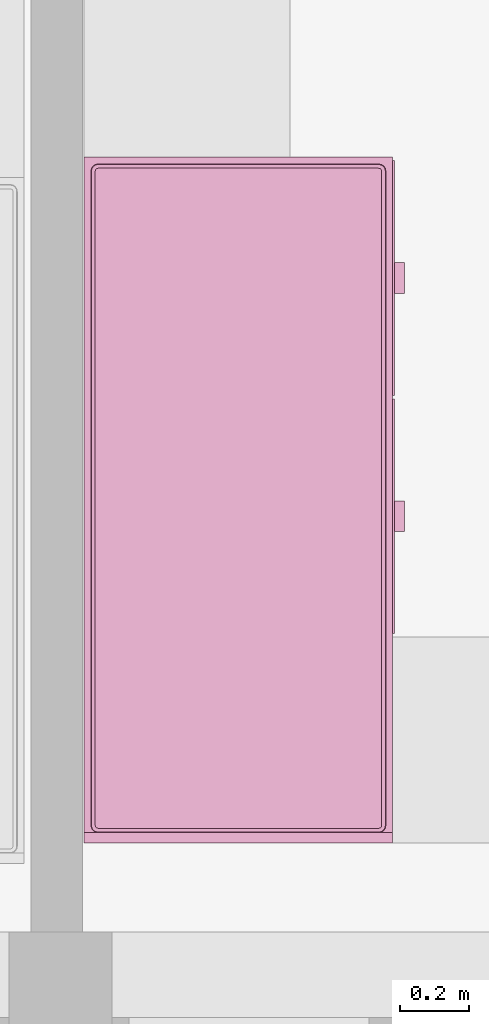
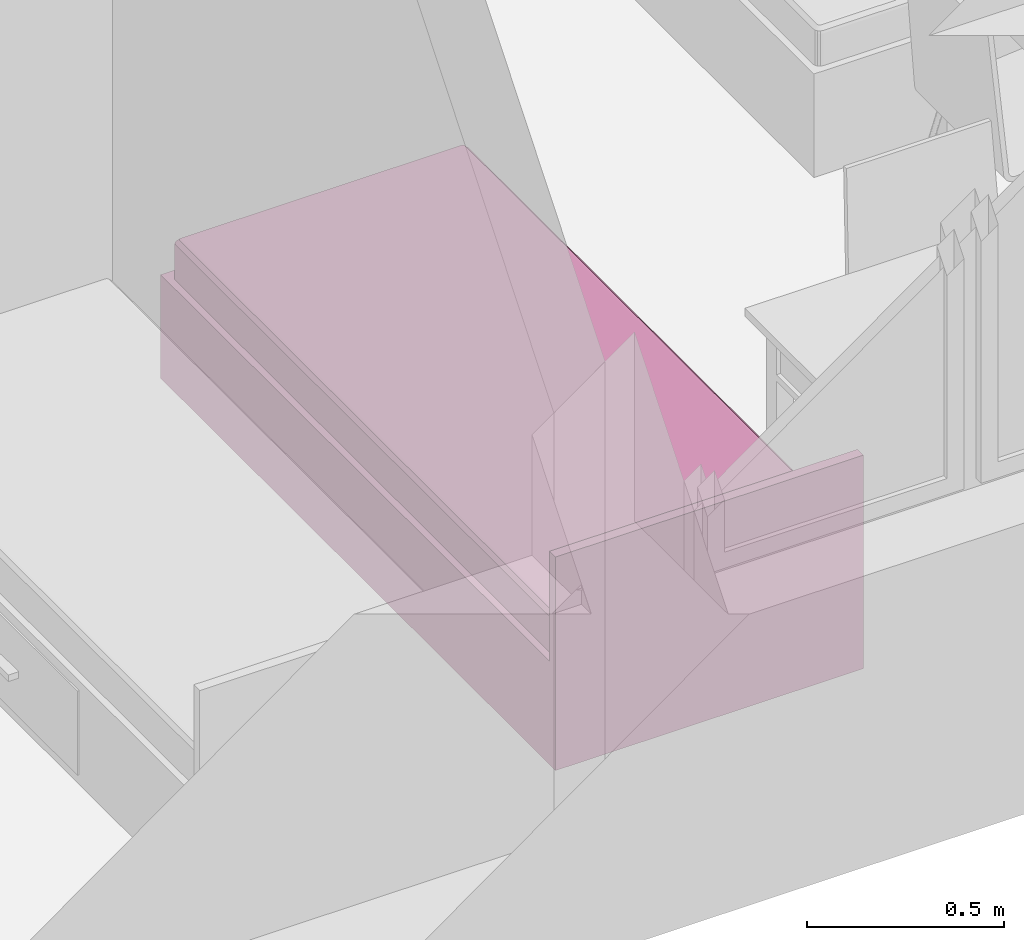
# One storey, part 98 of 172: 1 furnishing.
"""IFC2X3 building model written with IfcOpenShell, lengths in millimetres."""

from ifc_helpers import new_model, entity, si_unit, converted_unit, money_unit, direction, frame, origin_with_axes, place, context, subcontext, project, spatial, faceted_brep, source, transform, mapped, material, material_list, type_object, element, save


model = new_model("IFC2X3")

# Units and contexts
model_context = context("Model", 3, precision=1e-05, world=origin_with_axes(), true_north=direction((0.0, 1.0)))
body_context = subcontext(model_context, "Body", "Model", "MODEL_VIEW")
ifc_project = project(units=[si_unit("LENGTHUNIT", "METRE", prefix="MILLI"), si_unit("AREAUNIT", "SQUARE_METRE"), si_unit("VOLUMEUNIT", "CUBIC_METRE"), converted_unit("PLANEANGLEUNIT", "DEGREE", entity("IfcPlaneAngleMeasure", 0.0174532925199), si_unit("PLANEANGLEUNIT", "RADIAN"), dimensions=[0, 0, 0, 0, 0, 0, 0]), si_unit("SOLIDANGLEUNIT", "STERADIAN"), money_unit("USD"), converted_unit("TIMEUNIT", "Year", entity("IfcTimeMeasure", 31556926.0), si_unit("TIMEUNIT", "SECOND"), dimensions=[0, 0, 0, 0, 0, 0, 0]), si_unit("MASSUNIT", "GRAM"), si_unit("THERMODYNAMICTEMPERATUREUNIT", "DEGREE_CELSIUS"), si_unit("LUMINOUSINTENSITYUNIT", "LUMEN")], contexts=[model_context])

# Site, building, storey
site_placement = place(None, origin_with_axes())
site = spatial("IfcSite", under=ifc_project, at=site_placement, Name="Site", CompositionType="ELEMENT")
building_placement = place(site_placement, origin_with_axes())
building = spatial("IfcBuilding", under=site, at=building_placement, Name="Building", CompositionType="ELEMENT")
storey_placement = place(building_placement, frame((0.0, 0.0, 3200.0), z_axis=(0.0, 0.0, 1.0), x_axis=(1.0, 0.0, 0.0)))
storey = spatial("IfcBuildingStorey", under=building, at=storey_placement, Name="3KORRUS", CompositionType="ELEMENT", Elevation=3200.0)

# Furnishing
ifc_material = material(Name="Background")
ifc_material_list = material_list([ifc_material])
furnishing_element_type = type_object("IfcFurnishingElementType", Name="Bed 19")
shared_shape = source(origin_with_axes(), body_context, "Body", "Brep", [
    faceted_brep([(-900.0, 1970.0, 0.0), (-900.0, 2000.0, 0.0), (0.0, 2000.0, 0.0), (0.0, 1970.0, 0.0), (-900.0, 1970.0, 660.0), (-900.0, 2000.0, 660.0), (0.0, 2000.0, 660.0), (0.0, 1970.0, 660.0)], [[[0, 1, 2, 3]], [[0, 4, 5, 1]], [[1, 5, 6, 2]], [[2, 6, 7, 3]], [[3, 7, 4, 0]], [[7, 6, 5, 4]]]),
    faceted_brep([(-900.0, 0.0, 0.0), (-900.0, 1970.0, 0.0), (0.0, 1970.0, 0.0), (0.0, 0.0, 0.0), (-900.0, 0.0, 320.0), (-900.0, 1970.0, 320.0), (0.0, 1970.0, 320.0), (0.0, 0.0, 320.0)], [[[0, 1, 2, 3]], [[0, 4, 5, 1]], [[1, 5, 6, 2]], [[2, 6, 7, 3]], [[3, 7, 4, 0]], [[7, 6, 5, 4]]]),
    faceted_brep([(-905.0, 10.0, 30.0), (-905.0, 695.0, 30.0), (-900.0, 695.0, 30.0), (-900.0, 10.0, 30.0), (-905.0, 10.0, 290.0), (-905.0, 695.0, 290.0), (-900.0, 695.0, 290.0), (-900.0, 10.0, 290.0)], [[[0, 1, 2, 3]], [[0, 4, 5, 1]], [[1, 5, 6, 2]], [[2, 6, 7, 3]], [[3, 7, 4, 0]], [[7, 6, 5, 4]]]),
    faceted_brep([(-935.0, 307.5, 150.0), (-935.0, 397.5, 150.0), (-905.0, 397.5, 150.0), (-905.0, 307.5, 150.0), (-935.0, 307.5, 170.0), (-935.0, 397.5, 170.0), (-905.0, 397.5, 170.0), (-905.0, 307.5, 170.0)], [[[0, 1, 2, 3]], [[0, 4, 5, 1]], [[1, 5, 6, 2]], [[2, 6, 7, 3]], [[3, 7, 4, 0]], [[7, 6, 5, 4]]]),
    faceted_brep([(-905.0, 705.0, 30.0), (-905.0, 1390.0, 30.0), (-900.0, 1390.0, 30.0), (-900.0, 705.0, 30.0), (-905.0, 705.0, 290.0), (-905.0, 1390.0, 290.0), (-900.0, 1390.0, 290.0), (-900.0, 705.0, 290.0)], [[[0, 1, 2, 3]], [[0, 4, 5, 1]], [[1, 5, 6, 2]], [[2, 6, 7, 3]], [[3, 7, 4, 0]], [[7, 6, 5, 4]]]),
    faceted_brep([(-935.0, 1002.5, 150.0), (-935.0, 1092.5, 150.0), (-905.0, 1092.5, 150.0), (-905.0, 1002.5, 150.0), (-935.0, 1002.5, 170.0), (-935.0, 1092.5, 170.0), (-905.0, 1092.5, 170.0), (-905.0, 1002.5, 170.0)], [[[0, 1, 2, 3]], [[0, 4, 5, 1]], [[1, 5, 6, 2]], [[2, 6, 7, 3]], [[3, 7, 4, 0]], [[7, 6, 5, 4]]]),
    faceted_brep([(-20.0, 40.0, 350.0), (-21.522, 32.346, 350.0), (-25.858, 25.858, 350.0), (-32.346, 21.522, 350.0), (-40.0, 20.0, 350.0), (-860.0, 20.0, 350.0), (-867.654, 21.522, 350.0), (-874.142, 25.858, 350.0), (-878.478, 32.346, 350.0), (-880.0, 40.0, 350.0), (-880.0, 1950.0, 350.0), (-878.478, 1957.654, 350.0), (-874.142, 1964.142, 350.0), (-867.654, 1968.478, 350.0), (-860.0, 1970.0, 350.0), (-40.0, 1970.0, 350.0), (-32.346, 1968.478, 350.0), (-25.858, 1964.142, 350.0), (-21.522, 1957.654, 350.0), (-20.0, 1950.0, 350.0), (-20.0, 40.0, 420.0), (-21.522, 32.346, 420.0), (-25.858, 25.858, 420.0), (-32.346, 21.522, 420.0), (-40.0, 20.0, 420.0), (-860.0, 20.0, 420.0), (-867.654, 21.522, 420.0), (-874.142, 25.858, 420.0), (-878.478, 32.346, 420.0), (-880.0, 40.0, 420.0), (-880.0, 1950.0, 420.0), (-878.478, 1957.654, 420.0), (-874.142, 1964.142, 420.0), (-867.654, 1968.478, 420.0), (-860.0, 1970.0, 420.0), (-40.0, 1970.0, 420.0), (-32.346, 1968.478, 420.0), (-25.858, 1964.142, 420.0), (-21.522, 1957.654, 420.0), (-20.0, 1950.0, 420.0), (-21.522, 40.15, 427.654), (-22.956, 32.94, 427.654), (-26.955, 26.955, 427.654), (-32.94, 22.956, 427.654), (-40.15, 21.522, 427.654), (-859.85, 21.522, 427.654), (-867.06, 22.956, 427.654), (-873.045, 26.955, 427.654), (-877.044, 32.94, 427.654), (-878.478, 40.15, 427.654), (-878.478, 1949.85, 427.654), (-877.044, 1957.06, 427.654), (-873.045, 1963.045, 427.654), (-867.06, 1967.044, 427.654), (-859.85, 1968.478, 427.654), (-40.15, 1968.478, 427.654), (-32.94, 1967.044, 427.654), (-26.955, 1963.045, 427.654), (-22.956, 1957.06, 427.654), (-21.522, 1949.85, 427.654), (-32.346, 41.216, 438.478), (-33.152, 37.164, 438.478), (-34.759, 34.759, 438.478), (-37.164, 33.152, 438.478), (-41.216, 32.346, 438.478), (-858.784, 32.346, 438.478), (-862.836, 33.152, 438.478), (-865.241, 34.759, 438.478), (-866.848, 37.164, 438.478), (-867.654, 41.216, 438.478), (-867.654, 1948.784, 438.478), (-866.848, 1952.836, 438.478), (-865.241, 1955.241, 438.478), (-862.836, 1956.848, 438.478), (-858.784, 1957.654, 438.478), (-41.216, 1957.654, 438.478), (-37.164, 1956.848, 438.478), (-34.759, 1955.241, 438.478), (-33.152, 1952.836, 438.478), (-32.346, 1948.784, 438.478), (-40.0, 41.97, 440.0), (-40.327, 40.327, 440.0), (-40.0, 40.0, 439.924), (-41.97, 40.0, 440.0), (-858.03, 40.0, 440.0), (-859.673, 40.327, 440.0), (-860.0, 40.0, 439.924), (-860.0, 41.97, 440.0), (-860.0, 1948.03, 440.0), (-859.673, 1949.673, 440.0), (-860.0, 1950.0, 439.924), (-858.03, 1950.0, 440.0), (-41.97, 1950.0, 440.0), (-40.327, 1949.673, 440.0), (-40.0, 1950.0, 439.924), (-40.0, 1948.03, 440.0)], [[[0, 1, 2, 3, 4, 5, 6, 7, 8, 9, 10, 11, 12, 13, 14, 15, 16, 17, 18, 19]], [[0, 20, 21, 1]], [[1, 21, 22, 2]], [[2, 22, 23, 3]], [[3, 23, 24, 4]], [[4, 24, 25, 5]], [[5, 25, 26, 6]], [[6, 26, 27, 7]], [[7, 27, 28, 8]], [[8, 28, 29, 9]], [[9, 29, 30, 10]], [[10, 30, 31, 11]], [[11, 31, 32, 12]], [[12, 32, 33, 13]], [[13, 33, 34, 14]], [[14, 34, 35, 15]], [[15, 35, 36, 16]], [[16, 36, 37, 17]], [[17, 37, 38, 18]], [[18, 38, 39, 19]], [[19, 39, 20, 0]], [[20, 40, 41, 21]], [[21, 41, 42, 22]], [[22, 42, 43, 23]], [[23, 43, 44, 24]], [[24, 44, 45, 25]], [[25, 45, 46, 26]], [[26, 46, 47, 27]], [[27, 47, 48, 28]], [[28, 48, 49, 29]], [[29, 49, 50, 30]], [[30, 50, 51, 31]], [[31, 51, 52, 32]], [[32, 52, 53, 33]], [[33, 53, 54, 34]], [[34, 54, 55, 35]], [[35, 55, 56, 36]], [[36, 56, 57, 37]], [[37, 57, 58, 38]], [[38, 58, 59, 39]], [[39, 59, 40, 20]], [[40, 60, 61, 41]], [[41, 61, 62, 42]], [[42, 62, 63, 43]], [[43, 63, 64, 44]], [[44, 64, 65, 45]], [[45, 65, 66, 46]], [[46, 66, 67, 47]], [[47, 67, 68, 48]], [[48, 68, 69, 49]], [[49, 69, 70, 50]], [[50, 70, 71, 51]], [[51, 71, 72, 52]], [[52, 72, 73, 53]], [[53, 73, 74, 54]], [[54, 74, 75, 55]], [[55, 75, 76, 56]], [[56, 76, 77, 57]], [[57, 77, 78, 58]], [[58, 78, 79, 59]], [[59, 79, 60, 40]], [[60, 80, 81, 82, 61]], [[61, 82, 62]], [[62, 82, 63]], [[63, 82, 81, 83, 64]], [[64, 83, 84, 65]], [[65, 84, 85, 86, 66]], [[66, 86, 67]], [[67, 86, 68]], [[68, 86, 85, 87, 69]], [[69, 87, 88, 70]], [[70, 88, 89, 90, 71]], [[71, 90, 72]], [[72, 90, 73]], [[73, 90, 89, 91, 74]], [[74, 91, 92, 75]], [[75, 92, 93, 94, 76]], [[76, 94, 77]], [[77, 94, 78]], [[78, 94, 93, 95, 79]], [[79, 95, 80, 60]], [[95, 93, 92, 91, 89, 88, 87, 85, 84, 83, 81, 80]]]),
    faceted_brep([(-20.0, 40.0, 350.0), (-20.0, 1950.0, 350.0), (-21.522, 1957.654, 350.0), (-25.858, 1964.142, 350.0), (-32.346, 1968.478, 350.0), (-40.0, 1970.0, 350.0), (-860.0, 1970.0, 350.0), (-867.654, 1968.478, 350.0), (-874.142, 1964.142, 350.0), (-878.478, 1957.654, 350.0), (-880.0, 1950.0, 350.0), (-880.0, 40.0, 350.0), (-878.478, 32.346, 350.0), (-874.142, 25.858, 350.0), (-867.654, 21.522, 350.0), (-860.0, 20.0, 350.0), (-40.0, 20.0, 350.0), (-32.346, 21.522, 350.0), (-25.858, 25.858, 350.0), (-21.522, 32.346, 350.0), (-20.0, 40.0, 320.0), (-20.0, 1950.0, 320.0), (-21.522, 1957.654, 320.0), (-25.858, 1964.142, 320.0), (-32.346, 1968.478, 320.0), (-40.0, 1970.0, 320.0), (-860.0, 1970.0, 320.0), (-867.654, 1968.478, 320.0), (-874.142, 1964.142, 320.0), (-878.478, 1957.654, 320.0), (-880.0, 1950.0, 320.0), (-880.0, 40.0, 320.0), (-878.478, 32.346, 320.0), (-874.142, 25.858, 320.0), (-867.654, 21.522, 320.0), (-860.0, 20.0, 320.0), (-40.0, 20.0, 320.0), (-32.346, 21.522, 320.0), (-25.858, 25.858, 320.0), (-21.522, 32.346, 320.0)], [[[0, 1, 2, 3, 4, 5, 6, 7, 8, 9, 10, 11, 12, 13, 14, 15, 16, 17, 18, 19]], [[1, 0, 20, 21]], [[2, 1, 21, 22]], [[3, 2, 22, 23]], [[4, 3, 23, 24]], [[5, 4, 24, 25]], [[6, 5, 25, 26]], [[7, 6, 26, 27]], [[8, 7, 27, 28]], [[9, 8, 28, 29]], [[10, 9, 29, 30]], [[11, 10, 30, 31]], [[12, 11, 31, 32]], [[13, 12, 32, 33]], [[14, 13, 33, 34]], [[15, 14, 34, 35]], [[16, 15, 35, 36]], [[17, 16, 36, 37]], [[18, 17, 37, 38]], [[19, 18, 38, 39]], [[0, 19, 39, 20]], [[20, 39, 38, 37, 36, 35, 34, 33, 32, 31, 30, 29, 28, 27, 26, 25, 24, 23, 22, 21]]]),
])
furnishing_placement = place(storey_placement, frame((-33065.2967033, -17379.2398994, 0.0), z_axis=(0.0, 0.0, 1.0), x_axis=(-1.0, 0.0, 0.0)))
element("IfcFurnishingElement", 1, at=furnishing_placement, inside=storey, type_object=furnishing_element_type, material=ifc_material_list, Name="FU - 013", context=body_context, shape_type="MappedRepresentation", body=[
    mapped(shared_shape, transform((0.0, 0.0, 0.0))),
])

save(model, "model.ifc")
